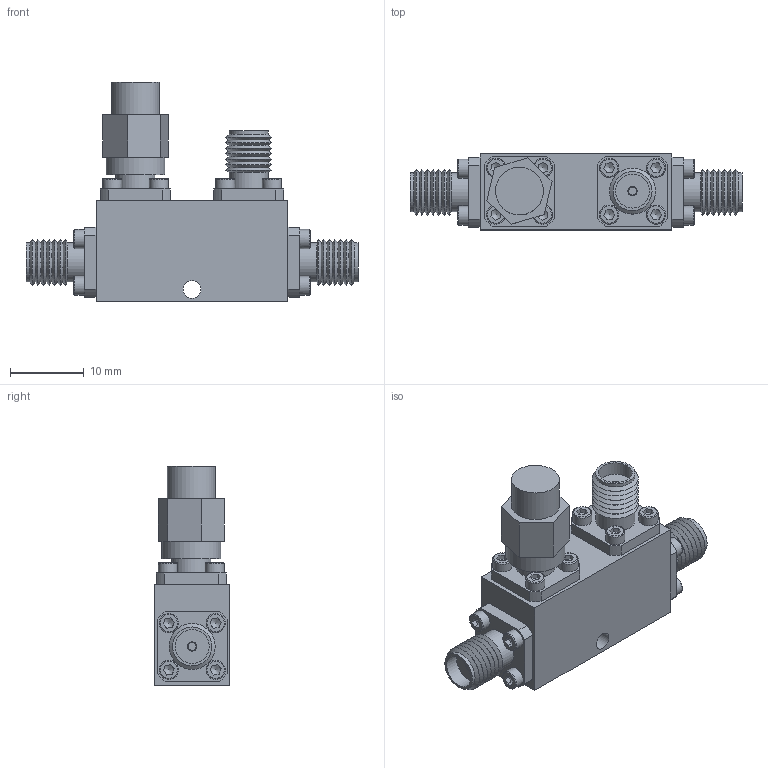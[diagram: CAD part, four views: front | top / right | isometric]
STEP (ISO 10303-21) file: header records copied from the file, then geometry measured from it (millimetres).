
FILE_DESCRIPTION(/* description */ ('Unknown'),/* implementation_level */ '2;1');
FILE_NAME(/* name */ 'DETI_MICROWAVE_DIRECTIONAL_COUPLER_011066_STEP',/* time_stamp */ '2021-06-08T15:34:51+02:00',/* author */ ('ALG'),/* organization */ ('DETI'),/* preprocessor_version */ 'ST-DEVELOPER v16.7',/* originating_system */ 'Solid Edge',/* authorisation */ 'Unknown');
FILE_SCHEMA (('AUTOMOTIVE_DESIGN {1 0 10303 214 3 1 1}'));
Length unit declared in the file: millimetre
Products named in the file (1): asmpourmiseenligne2
Bounding box: 45.05 x 10.3 x 29.82 mm (x, y, z)
Volume: 5287.3 mm3; surface area: 3978.2 mm2
Topology: 1 solids, 34 shells, 449 faces, 1018 edges, 666 vertices
Faces by surface type: plane 225, cylinder 110, cone 98, torus 16
Full cylindrical faces by diameter (mm): 0.8 x1, 1.1 x4, 1.221 x16, 1.27 x7, 1.4 x16, 1.8 x16, 2.4 x1, 2.6 x16, 4.1 x4, 4.6 x3, 5.3 x7, 6.5 x1, 6.8 x1, 8 x1
Entity records: 13898 total; most frequent: CARTESIAN_POINT 2038, DIRECTION 1800, ORIENTED_EDGE 1392, FACE_BOUND 756, AXIS2_PLACEMENT_3D 754, EDGE_LOOP 728, EDGE_CURVE 696, VERTEX_POINT 580
